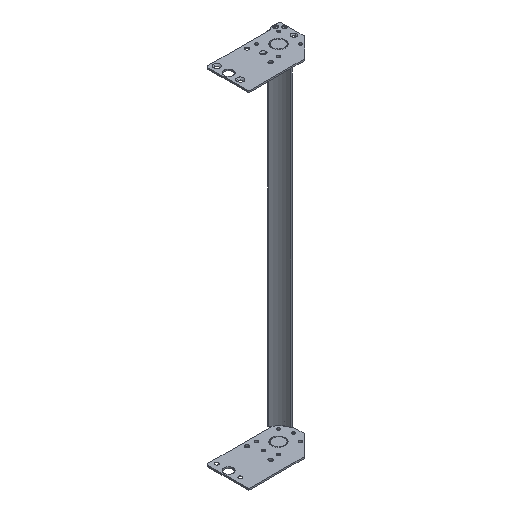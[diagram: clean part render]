
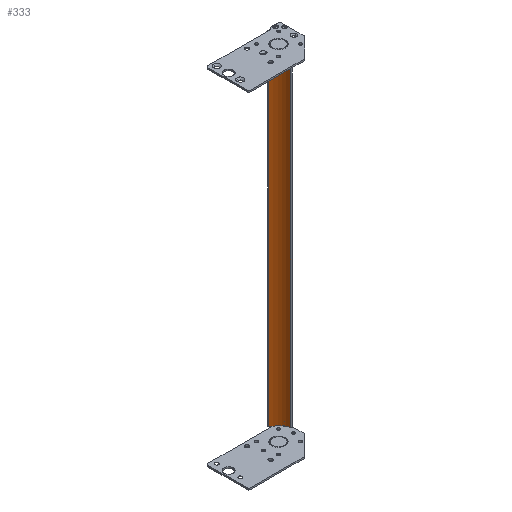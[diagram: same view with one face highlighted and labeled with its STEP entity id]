
A CAD part, isometric view. The second image highlights one B-rep face of the part: STEP entity #333.
In plain terms, the highlighted cylindrical face has radius 40.64 mm (diameter 81.28 mm), a partial arc.
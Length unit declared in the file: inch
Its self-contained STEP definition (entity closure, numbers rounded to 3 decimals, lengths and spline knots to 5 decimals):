
#40=CARTESIAN_POINT('',(-1.52,1.63,-14.118));
#41=DIRECTION('',(0.,0.,-1.));
#42=DIRECTION('',(0.914,-0.405,0.));
#43=AXIS2_PLACEMENT_3D('',#40,#41,#42);
#87=CARTESIAN_POINT('',(-1.52,1.63,14.118));
#88=DIRECTION('',(0.,0.,-1.));
#89=DIRECTION('',(0.914,-0.405,0.));
#90=AXIS2_PLACEMENT_3D('',#87,#88,#89);
#118=DIRECTION('',(0.,0.,1.));
#119=VECTOR('',#118,28.236);
#120=CARTESIAN_POINT('',(-1.00032,0.11675,-14.118));
#121=LINE('',#120,#119);
#122=DIRECTION('',(0.,0.,1.));
#123=VECTOR('',#122,28.236);
#124=CARTESIAN_POINT('',(-0.05742,0.98126,-14.118));
#125=LINE('',#124,#123);
#154=CARTESIAN_POINT('',(-0.05742,0.98126,-14.118));
#155=VERTEX_POINT('',#154);
#156=CARTESIAN_POINT('',(-1.00032,0.11675,-14.118));
#157=VERTEX_POINT('',#156);
#174=CARTESIAN_POINT('',(-0.05742,0.98126,14.118));
#175=VERTEX_POINT('',#174);
#176=CARTESIAN_POINT('',(-1.00032,0.11675,14.118));
#177=VERTEX_POINT('',#176);
#321=CARTESIAN_POINT('',(-1.52,1.63,-14.118));
#322=DIRECTION('',(0.,0.,1.));
#323=DIRECTION('',(1.,0.,0.));
#324=AXIS2_PLACEMENT_3D('',#321,#322,#323);
#325=CYLINDRICAL_SURFACE('',#324,1.6);
#326=ORIENTED_EDGE('',*,*,#191,.F.);
#328=ORIENTED_EDGE('',*,*,#327,.T.);
#329=ORIENTED_EDGE('',*,*,#247,.T.);
#330=ORIENTED_EDGE('',*,*,#314,.F.);
#331=EDGE_LOOP('',(#326,#328,#329,#330));
#332=FACE_OUTER_BOUND('',#331,.F.);
#44=CIRCLE('',#43,1.6);
#91=CIRCLE('',#90,1.6);
#191=EDGE_CURVE('',#155,#157,#44,.T.);
#247=EDGE_CURVE('',#175,#177,#91,.T.);
#314=EDGE_CURVE('',#157,#177,#121,.T.);
#327=EDGE_CURVE('',#155,#175,#125,.T.);
#333=ADVANCED_FACE('',(#332),#325,.F.);
